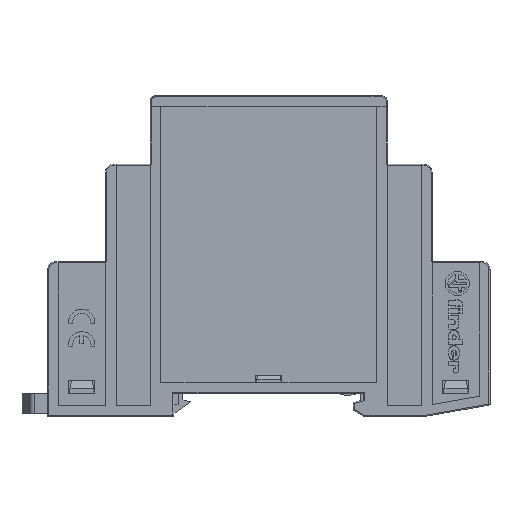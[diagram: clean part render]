
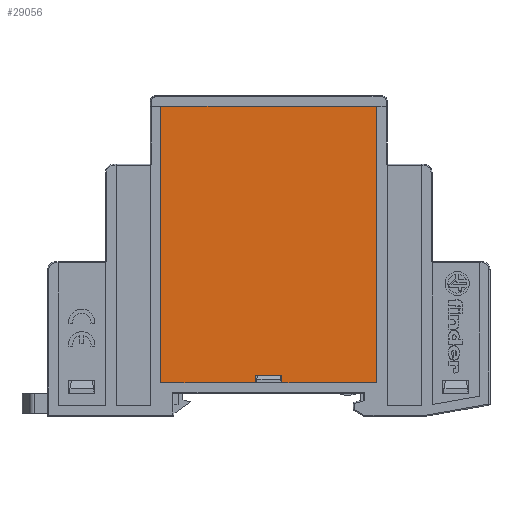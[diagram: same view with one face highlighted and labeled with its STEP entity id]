
A CAD part, left-side view. The second image highlights one B-rep face of the part: STEP entity #29056.
In plain terms, the highlighted planar face has unit normal (-1, 0, 0).
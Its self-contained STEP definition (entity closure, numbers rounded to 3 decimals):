
#3416=LINE('',#52855,#7500);
#3564=LINE('',#53287,#7648);
#3585=LINE('',#53325,#7669);
#3848=LINE('',#54092,#7932);
#3849=LINE('',#54094,#7933);
#3850=LINE('',#54096,#7934);
#3851=LINE('',#54098,#7935);
#3852=LINE('',#54100,#7936);
#7500=VECTOR('',#41404,1000.);
#7648=VECTOR('',#41640,1000.);
#7669=VECTOR('',#41665,1000.);
#7932=VECTOR('',#42194,1000.);
#7933=VECTOR('',#42195,1000.);
#7934=VECTOR('',#42196,1000.);
#7935=VECTOR('',#42197,1000.);
#7936=VECTOR('',#42198,1000.);
#9631=PLANE('',#35706);
#15926=ORIENTED_EDGE('',*,*,#20778,.F.);
#15927=ORIENTED_EDGE('',*,*,#20964,.F.);
#15928=ORIENTED_EDGE('',*,*,#21264,.T.);
#15929=ORIENTED_EDGE('',*,*,#21265,.F.);
#15930=ORIENTED_EDGE('',*,*,#21266,.T.);
#15931=ORIENTED_EDGE('',*,*,#21267,.T.);
#15932=ORIENTED_EDGE('',*,*,#21268,.T.);
#15933=ORIENTED_EDGE('',*,*,#20943,.T.);
#20778=EDGE_CURVE('',#24502,#24503,#3416,.T.);
#20943=EDGE_CURVE('',#24638,#24503,#3564,.T.);
#20964=EDGE_CURVE('',#24654,#24502,#3585,.T.);
#21264=EDGE_CURVE('',#24654,#24847,#3848,.T.);
#21265=EDGE_CURVE('',#24848,#24847,#3849,.T.);
#21266=EDGE_CURVE('',#24848,#24849,#3850,.T.);
#21267=EDGE_CURVE('',#24849,#24850,#3851,.T.);
#21268=EDGE_CURVE('',#24850,#24638,#3852,.T.);
#24502=VERTEX_POINT('',#52856);
#24503=VERTEX_POINT('',#52857);
#24638=VERTEX_POINT('',#53283);
#24654=VERTEX_POINT('',#53324);
#24847=VERTEX_POINT('',#54093);
#24848=VERTEX_POINT('',#54095);
#24849=VERTEX_POINT('',#54097);
#24850=VERTEX_POINT('',#54099);
#26387=EDGE_LOOP('',(#15926,#15927,#15928,#15929,#15930,#15931,#15932,#15933));
#27728=FACE_BOUND('',#26387,.T.);
#29056=ADVANCED_FACE('',(#27728),#9631,.T.);
#35706=AXIS2_PLACEMENT_3D('',#54091,#42192,#42193);
#41404=DIRECTION('',(0.,1.,0.));
#41640=DIRECTION('',(0.,0.,1.));
#41665=DIRECTION('',(0.,0.,1.));
#42192=DIRECTION('',(-1.,0.,0.));
#42193=DIRECTION('',(0.,0.,1.));
#42194=DIRECTION('',(0.,-1.,0.));
#42195=DIRECTION('',(0.,0.,-1.));
#42196=DIRECTION('',(0.,1.,0.));
#42197=DIRECTION('',(0.,0.,-1.));
#42198=DIRECTION('',(0.,-1.,0.));
#52855=CARTESIAN_POINT('',(-13.795,10.773,-46.501));
#52856=CARTESIAN_POINT('',(-13.795,50.274,-46.501));
#52857=CARTESIAN_POINT('',(-13.795,55.274,-46.501));
#53283=CARTESIAN_POINT('',(-13.795,55.274,-48.001));
#53287=CARTESIAN_POINT('',(-13.795,55.274,-54.302));
#53324=CARTESIAN_POINT('',(-13.795,50.274,-48.001));
#53325=CARTESIAN_POINT('',(-13.795,50.274,-54.302));
#54091=CARTESIAN_POINT('',(-13.795,10.773,-54.302));
#54092=CARTESIAN_POINT('',(-13.795,32.274,-48.001));
#54093=CARTESIAN_POINT('',(-13.795,32.274,-48.001));
#54094=CARTESIAN_POINT('',(-13.795,32.274,4.499));
#54095=CARTESIAN_POINT('',(-13.795,32.274,4.499));
#54096=CARTESIAN_POINT('',(-13.795,79.774,4.499));
#54097=CARTESIAN_POINT('',(-13.795,73.274,4.499));
#54098=CARTESIAN_POINT('',(-13.795,73.274,-54.301));
#54099=CARTESIAN_POINT('',(-13.795,73.274,-48.001));
#54100=CARTESIAN_POINT('',(-13.795,32.274,-48.001));
